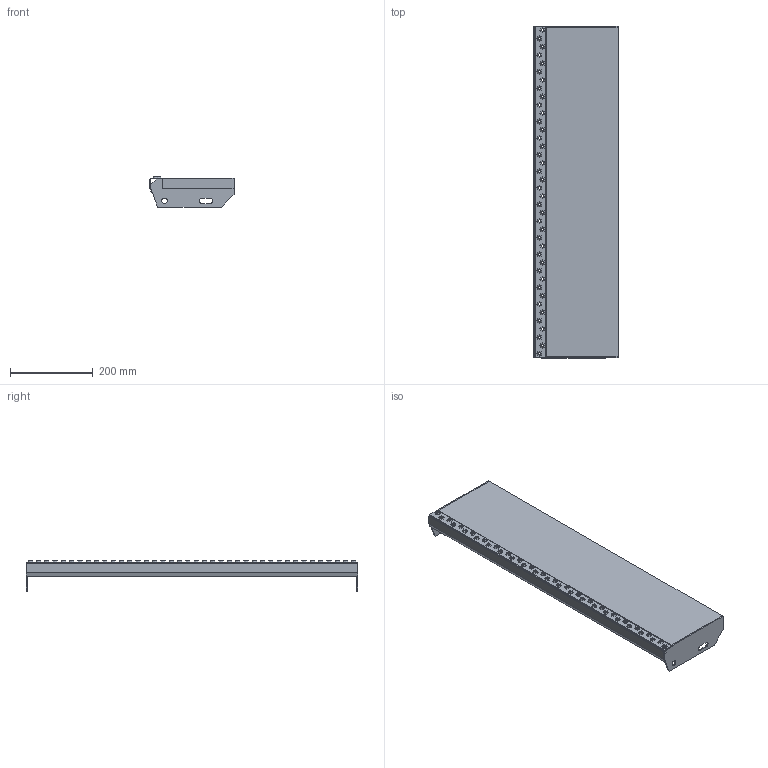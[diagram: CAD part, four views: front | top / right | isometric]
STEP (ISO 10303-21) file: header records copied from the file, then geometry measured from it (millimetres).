
FILE_DESCRIPTION(('Open CASCADE Model'),'2;1');
FILE_NAME('Open CASCADE Shape Model','2019-03-13T09:49:50',('Author'),( 'Open CASCADE'),'Open CASCADE STEP processor 7.2','Open CASCADE 7.2' ,'Unknown');
FILE_SCHEMA(('AUTOMOTIVE_DESIGN { 1 0 10303 214 1 1 1 1 }'));
Length unit declared in the file: millimetre
Products named in the file (1260): Open CASCADE STEP translator 7.2 1; Open CASCADE STEP translator 7.2 2; Open CASCADE STEP translator 7.2 3; Open CASCADE STEP translator 7.2 3.1; Open CASCADE STEP translator 7.2 3.2; Open CASCADE STEP translator 7.2 3.3; Open CASCADE STEP translator 7.2 3.4; Open CASCADE STEP translator 7.2 3.5; Open CASCADE STEP translator 7.2 3.6; Open CASCADE STEP translator 7.2 3.7; Open CASCADE STEP translator 7.2 3.8; Open CASCADE STEP translator 7.2 3.9; Open CASCADE STEP translator 7.2 3.10; Open CASCADE STEP translator 7.2 3.11; Open CASCADE STEP translator 7.2 3.12; Open CASCADE STEP translator 7.2 3.13; Open CASCADE STEP translator 7.2 3.14; Open CASCADE STEP translator 7.2 3.15; Open CASCADE STEP translator 7.2 3.16; Open CASCADE STEP translator 7.2 3.17; Open CASCADE STEP translator 7.2 3.18; Open CASCADE STEP translator 7.2 3.19; Open CASCADE STEP translator 7.2 3.20; Open CASCADE STEP translator 7.2 3.21; Open CASCADE STEP translator 7.2 3.22; Open CASCADE STEP translator 7.2 3.23; Open CASCADE STEP translator 7.2 3.24; Open CASCADE STEP translator 7.2 3.25; Open CASCADE STEP translator 7.2 3.26; Open CASCADE STEP translator 7.2 3.27; Open CASCADE STEP translator 7.2 3.28; Open CASCADE STEP translator 7.2 3.29; Open CASCADE STEP translator 7.2 3.30; Open CASCADE STEP translator 7.2 3.31; Open CASCADE STEP translator 7.2 3.32; Open CASCADE STEP translator 7.2 3.33; Open CASCADE STEP translator 7.2 3.34; Open CASCADE STEP translator 7.2 3.35; Open CASCADE STEP translator 7.2 3.36; Open CASCADE STEP translator 7.2 3.37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
Assembly tree (1256 placements, depth 2):
  Open CASCADE STEP translator 7.2 1
  Open CASCADE STEP translator 7.2 2
  Open CASCADE STEP translator 7.2 3
    Open CASCADE STEP translator 7.2 3.1
    Open CASCADE STEP translator 7.2 3.2
    Open CASCADE STEP translator 7.2 3.3
    Open CASCADE STEP translator 7.2 3.4
    Open CASCADE STEP translator 7.2 3.5
    Open CASCADE STEP translator 7.2 3.6
    Open CASCADE STEP translator 7.2 3.7
    Open CASCADE STEP translator 7.2 3.8
    Open CASCADE STEP translator 7.2 3.9
    Open CASCADE STEP translator 7.2 3.10
    Open CASCADE STEP translator 7.2 3.11
    Open CASCADE STEP translator 7.2 3.12
    Open CASCADE STEP translator 7.2 3.13
    Open CASCADE STEP translator 7.2 3.14
    Open CASCADE STEP translator 7.2 3.15
    Open CASCADE STEP translator 7.2 3.16
    Open CASCADE STEP translator 7.2 3.17
    Open CASCADE STEP translator 7.2 3.18
    Open CASCADE STEP translator 7.2 3.19
    Open CASCADE STEP translator 7.2 3.20
    Open CASCADE STEP translator 7.2 3.21
    Open CASCADE STEP translator 7.2 3.22
    Open CASCADE STEP translator 7.2 3.23
    Open CASCADE STEP translator 7.2 3.24
    Open CASCADE STEP translator 7.2 3.25
    Open CASCADE STEP translator 7.2 3.26
    Open CASCADE STEP translator 7.2 3.27
    Open CASCADE STEP translator 7.2 3.28
    Open CASCADE STEP translator 7.2 3.29
    Open CASCADE STEP translator 7.2 3.30
    Open CASCADE STEP translator 7.2 3.31
    Open CASCADE STEP translator 7.2 3.32
    Open CASCADE STEP translator 7.2 3.33
    Open CASCADE STEP translator 7.2 3.34
    Open CASCADE STEP translator 7.2 3.35
    Open CASCADE STEP translator 7.2 3.36
    Open CASCADE STEP translator 7.2 3.37
    Open CASCADE STEP translator 7.2 3.38
    Open CASCADE STEP translator 7.2 3.39
    Open CASCADE STEP translator 7.2 3.40
    Open CASCADE STEP translator 7.2 3.41
    Open CASCADE STEP translator 7.2 3.42
    Open CASCADE STEP translator 7.2 3.43
    Open CASCADE STEP translator 7.2 3.44
    Open CASCADE STEP translator 7.2 3.45
    Open CASCADE STEP translator 7.2 3.46
    Open CASCADE STEP translator 7.2 3.47
    Open CASCADE STEP translator 7.2 3.48
    Open CASCADE STEP translator 7.2 3.49
    Open CASCADE STEP translator 7.2 3.50
    Open CASCADE STEP translator 7.2 3.51
    Open CASCADE STEP translator 7.2 3.52
    Open CASCADE STEP translator 7.2 3.53
    Open CASCADE STEP translator 7.2 3.54
    Open CASCADE STEP translator 7.2 3.55
    Open CASCADE STEP translator 7.2 3.56
    Open CASCADE STEP translator 7.2 3.57
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Bounding box: 202.5 x 800 x 73 mm (x, y, z)
Volume: 3509356.2 mm3; surface area: 481671.3 mm2
Topology: 3 solids, 1259 shells, 1294 faces, 6900 edges, 6868 vertices
Faces by surface type: plane 1288, cylinder 6
Full cylindrical faces by diameter (mm): 13 x2
Entity records: 140072 total; most frequent: CARTESIAN_POINT 23411, DIRECTION 18974, LINE 13848, VECTOR 13848, ORIENTED_EDGE 6996, PCURVE 6996, DEFINITIONAL_REPRESENTATION 6996, EDGE_CURVE 6900
